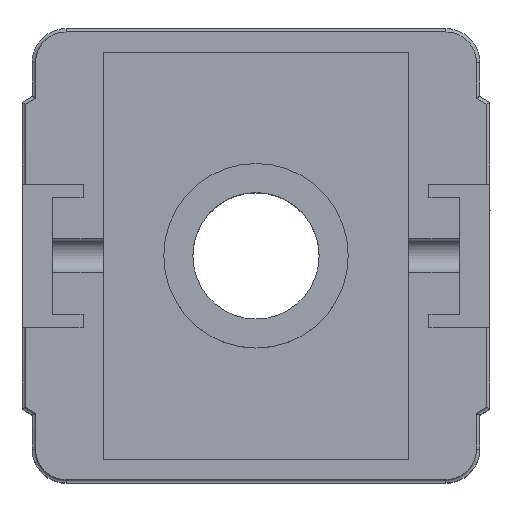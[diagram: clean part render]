
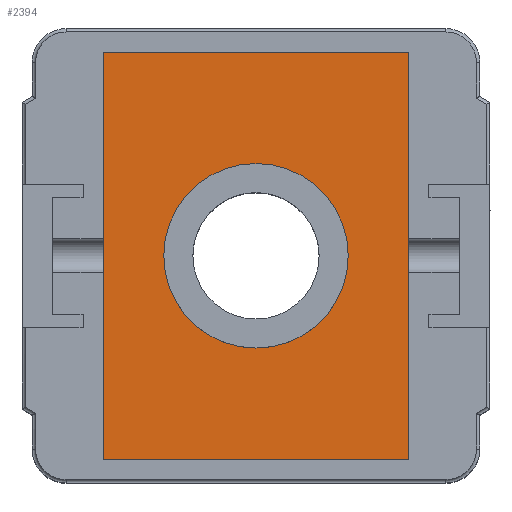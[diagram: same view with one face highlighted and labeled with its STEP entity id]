
A CAD part, top view. The second image highlights one B-rep face of the part: STEP entity #2394.
In plain terms, the highlighted planar face has unit normal (0, 0, 1).
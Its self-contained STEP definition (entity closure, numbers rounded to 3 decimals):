
#2257=CARTESIAN_POINT('',(13.6,0.,15.0));
#2258=VERTEX_POINT('',#2257);
#2259=CARTESIAN_POINT('',(0.0,0.0,15.));
#2260=DIRECTION('',(0.0,0.0,1.0));
#2261=DIRECTION('',(-1.0,0.0,0.0));
#2262=AXIS2_PLACEMENT_3D('',#2259,#2260,#2261);
#2263=CIRCLE('',#2262,13.6);
#2264=EDGE_CURVE('',#2258,#2258,#2263,.T.);
#2287=CARTESIAN_POINT('',(-22.5,-30.,15.));
#2288=VERTEX_POINT('',#2287);
#2295=CARTESIAN_POINT('',(-22.5,30.,15.));
#2296=VERTEX_POINT('',#2295);
#2297=CARTESIAN_POINT('',(-22.5,30.,15.0));
#2298=DIRECTION('',(0.0,-1.0,0.0));
#2299=VECTOR('',#2298,60.);
#2300=LINE('',#2297,#2299);
#2301=EDGE_CURVE('',#2296,#2288,#2300,.T.);
#2318=CARTESIAN_POINT('',(22.5,-30.0,15.));
#2319=VERTEX_POINT('',#2318);
#2320=CARTESIAN_POINT('',(-22.5,-30.,15.0));
#2321=DIRECTION('',(1.0,0.0,0.0));
#2322=VECTOR('',#2321,45.0);
#2323=LINE('',#2320,#2322);
#2324=EDGE_CURVE('',#2288,#2319,#2323,.T.);
#2344=CARTESIAN_POINT('',(22.5,30.0,15.));
#2345=VERTEX_POINT('',#2344);
#2352=CARTESIAN_POINT('',(22.5,-30.0,15.0));
#2353=DIRECTION('',(0.0,1.0,0.0));
#2354=VECTOR('',#2353,60.0);
#2355=LINE('',#2352,#2354);
#2356=EDGE_CURVE('',#2319,#2345,#2355,.T.);
#2368=CARTESIAN_POINT('',(22.5,30.0,15.0));
#2369=DIRECTION('',(-1.0,0.0,0.0));
#2370=VECTOR('',#2369,45.0);
#2371=LINE('',#2368,#2370);
#2372=EDGE_CURVE('',#2345,#2296,#2371,.T.);
#2380=CARTESIAN_POINT('',(0.,0.,15.));
#2381=DIRECTION('',(0.0,0.0,1.0));
#2382=DIRECTION('',(1.0,0.0,0.0));
#2383=AXIS2_PLACEMENT_3D('',#2380,#2381,#2382);
#2384=PLANE('',#2383);
#2385=ORIENTED_EDGE('',*,*,#2301,.T.);
#2386=ORIENTED_EDGE('',*,*,#2324,.T.);
#2387=ORIENTED_EDGE('',*,*,#2356,.T.);
#2388=ORIENTED_EDGE('',*,*,#2372,.T.);
#2389=EDGE_LOOP('',(#2385,#2386,#2387,#2388));
#2390=FACE_OUTER_BOUND('',#2389,.T.);
#2391=ORIENTED_EDGE('',*,*,#2264,.F.);
#2392=EDGE_LOOP('',(#2391));
#2393=FACE_BOUND('',#2392,.T.);
#2394=ADVANCED_FACE('',(#2390,#2393),#2384,.T.);
